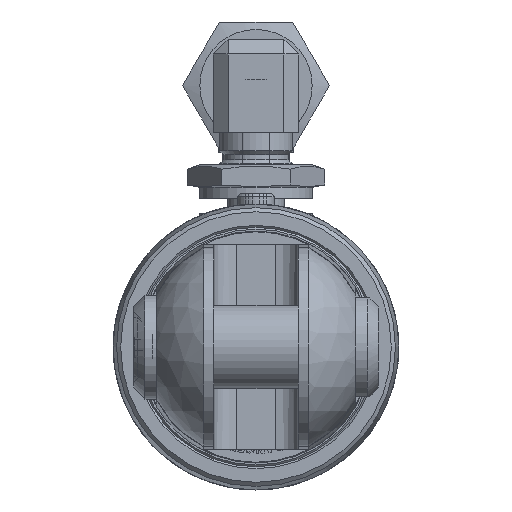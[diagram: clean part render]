
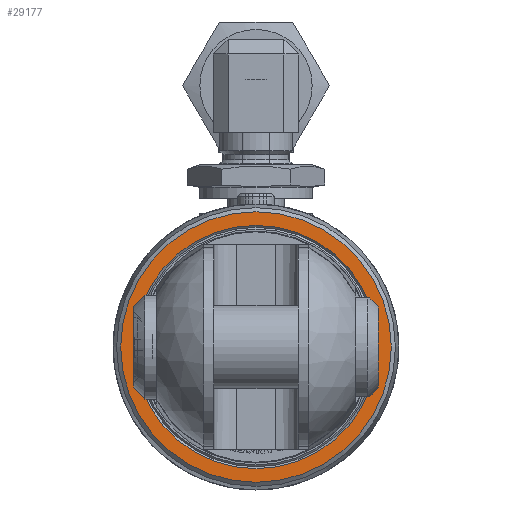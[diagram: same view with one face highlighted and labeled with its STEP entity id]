
A CAD part, left-side view. The second image highlights one B-rep face of the part: STEP entity #29177.
In plain terms, the highlighted planar face has unit normal (-1, 0, 0).
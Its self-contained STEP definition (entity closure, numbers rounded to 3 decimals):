
#745=CIRCLE('',#30912,18.075);
#747=CIRCLE('',#30916,16.25);
#1012=PLANE('',#30915);
#3516=FACE_BOUND('',#5546,.T.);
#3863=FACE_OUTER_BOUND('',#5545,.T.);
#5545=EDGE_LOOP('',(#21102));
#5546=EDGE_LOOP('',(#21103));
#13894=VERTEX_POINT('',#38389);
#13896=VERTEX_POINT('',#38395);
#16743=EDGE_CURVE('',#13894,#13894,#745,.T.);
#16745=EDGE_CURVE('',#13896,#13896,#747,.T.);
#21102=ORIENTED_EDGE('',*,*,#16743,.F.);
#21103=ORIENTED_EDGE('',*,*,#16745,.F.);
#29177=ADVANCED_FACE('',(#3863,#3516),#1012,.F.);
#30912=AXIS2_PLACEMENT_3D('',#38390,#32547,#32548);
#30915=AXIS2_PLACEMENT_3D('',#38394,#32553,#32554);
#30916=AXIS2_PLACEMENT_3D('',#38396,#32555,#32556);
#32547=DIRECTION('center_axis',(1.,0.,0.));
#32548=DIRECTION('ref_axis',(0.,-1.,0.));
#32553=DIRECTION('center_axis',(1.,0.,0.));
#32554=DIRECTION('ref_axis',(0.,0.,-1.));
#32555=DIRECTION('center_axis',(-1.,0.,0.));
#32556=DIRECTION('ref_axis',(0.,-1.,0.));
#38389=CARTESIAN_POINT('',(-675.5,18.075,0.));
#38390=CARTESIAN_POINT('Origin',(-675.5,0.,0.));
#38394=CARTESIAN_POINT('Origin',(-675.5,0.,0.));
#38395=CARTESIAN_POINT('',(-675.5,16.25,0.));
#38396=CARTESIAN_POINT('Origin',(-675.5,0.,0.));
